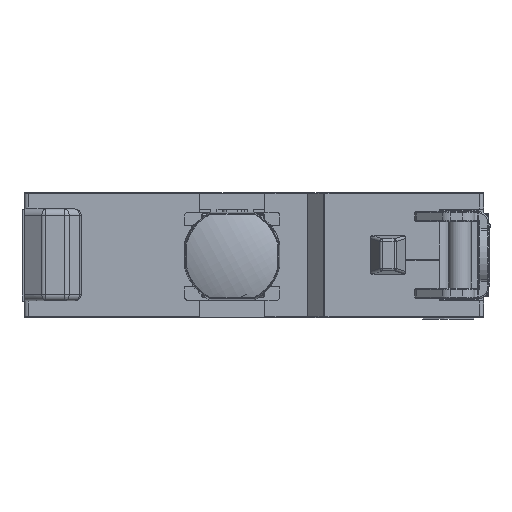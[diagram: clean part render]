
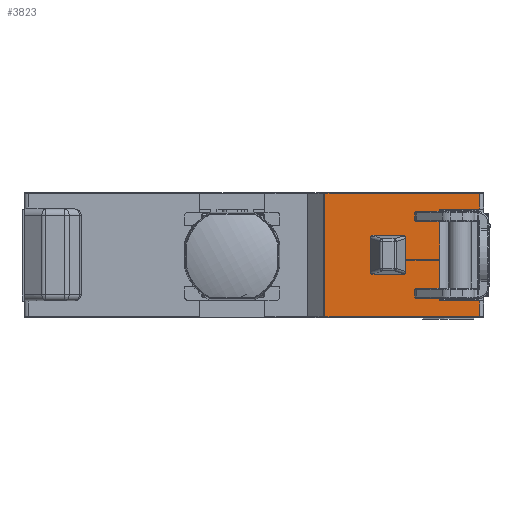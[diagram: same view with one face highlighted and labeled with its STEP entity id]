
A CAD part, top view. The second image highlights one B-rep face of the part: STEP entity #3823.
In plain terms, the highlighted planar face has unit normal (0, 0, 1).
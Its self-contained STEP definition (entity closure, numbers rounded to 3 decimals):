
#1602=CIRCLE('',#32000,0.2);
#1603=CIRCLE('',#32003,0.2);
#1604=CIRCLE('',#32006,0.2);
#3823=ADVANCED_FACE('',(#6351),#5276,.T.);
#5276=PLANE('',#32084);
#6351=FACE_OUTER_BOUND('',#8014,.T.);
#8014=EDGE_LOOP('',(#12442,#12443,#12444,#12445,#12446,#12447,#12448,#12449,
#12450,#12451,#12452,#12453,#12454,#12455,#12456,#12457,#12458,#12459,#12460,
#12461,#12462,#12463,#12464,#12465,#12466,#12467));
#12442=ORIENTED_EDGE('',*,*,#22766,.T.);
#12443=ORIENTED_EDGE('',*,*,#22876,.T.);
#12444=ORIENTED_EDGE('',*,*,#21464,.F.);
#12445=ORIENTED_EDGE('',*,*,#22418,.F.);
#12446=ORIENTED_EDGE('',*,*,#22877,.F.);
#12447=ORIENTED_EDGE('',*,*,#22878,.F.);
#12448=ORIENTED_EDGE('',*,*,#22413,.F.);
#12449=ORIENTED_EDGE('',*,*,#21274,.T.);
#12450=ORIENTED_EDGE('',*,*,#22879,.T.);
#12451=ORIENTED_EDGE('',*,*,#21279,.T.);
#12452=ORIENTED_EDGE('',*,*,#22411,.F.);
#12453=ORIENTED_EDGE('',*,*,#22493,.F.);
#12454=ORIENTED_EDGE('',*,*,#22532,.F.);
#12455=ORIENTED_EDGE('',*,*,#22880,.T.);
#12456=ORIENTED_EDGE('',*,*,#22778,.F.);
#12457=ORIENTED_EDGE('',*,*,#22808,.T.);
#12458=ORIENTED_EDGE('',*,*,#22875,.T.);
#12459=ORIENTED_EDGE('',*,*,#22881,.T.);
#12460=ORIENTED_EDGE('',*,*,#22882,.T.);
#12461=ORIENTED_EDGE('',*,*,#21288,.T.);
#12462=ORIENTED_EDGE('',*,*,#22793,.T.);
#12463=ORIENTED_EDGE('',*,*,#22777,.F.);
#12464=ORIENTED_EDGE('',*,*,#22773,.T.);
#12465=ORIENTED_EDGE('',*,*,#22771,.T.);
#12466=ORIENTED_EDGE('',*,*,#22769,.T.);
#12467=ORIENTED_EDGE('',*,*,#22767,.T.);
#18386=VERTEX_POINT('',#41935);
#18388=VERTEX_POINT('',#41938);
#18392=VERTEX_POINT('',#41948);
#18393=VERTEX_POINT('',#41949);
#18401=VERTEX_POINT('',#41969);
#18402=VERTEX_POINT('',#41971);
#18521=VERTEX_POINT('',#42905);
#18524=VERTEX_POINT('',#42911);
#19153=VERTEX_POINT('',#45192);
#19155=VERTEX_POINT('',#45198);
#19157=VERTEX_POINT('',#45206);
#19192=VERTEX_POINT('',#45357);
#19194=VERTEX_POINT('',#45365);
#19328=VERTEX_POINT('',#46176);
#19342=VERTEX_POINT('',#46238);
#19351=VERTEX_POINT('',#46523);
#19356=VERTEX_POINT('',#46549);
#19357=VERTEX_POINT('',#46551);
#19358=VERTEX_POINT('',#46555);
#19359=VERTEX_POINT('',#46559);
#19360=VERTEX_POINT('',#46563);
#19361=VERTEX_POINT('',#46567);
#19362=VERTEX_POINT('',#46571);
#19383=VERTEX_POINT('',#46652);
#19403=VERTEX_POINT('',#46790);
#19404=VERTEX_POINT('',#46799);
#21274=EDGE_CURVE('',#18388,#18386,#25719,.T.);
#21279=EDGE_CURVE('',#18392,#18393,#25722,.T.);
#21288=EDGE_CURVE('',#18402,#18401,#25730,.T.);
#21464=EDGE_CURVE('',#18524,#18521,#25865,.T.);
#22411=EDGE_CURVE('',#19153,#18393,#26622,.T.);
#22413=EDGE_CURVE('',#18388,#19155,#26624,.T.);
#22418=EDGE_CURVE('',#19157,#18524,#26628,.T.);
#22493=EDGE_CURVE('',#19192,#19153,#26692,.T.);
#22532=EDGE_CURVE('',#19194,#19192,#26709,.T.);
#22766=EDGE_CURVE('',#19356,#19357,#1602,.T.);
#22767=EDGE_CURVE('',#19358,#19356,#26853,.T.);
#22769=EDGE_CURVE('',#19359,#19358,#1603,.T.);
#22771=EDGE_CURVE('',#19360,#19359,#26856,.T.);
#22773=EDGE_CURVE('',#19361,#19360,#1604,.T.);
#22777=EDGE_CURVE('',#19361,#19362,#26861,.T.);
#22778=EDGE_CURVE('',#19328,#19342,#26862,.T.);
#22793=EDGE_CURVE('',#18401,#19362,#26872,.T.);
#22808=EDGE_CURVE('',#19328,#19383,#26878,.T.);
#22875=EDGE_CURVE('',#19383,#19403,#26922,.T.);
#22876=EDGE_CURVE('',#19357,#18521,#26923,.T.);
#22877=EDGE_CURVE('',#19351,#19157,#26924,.T.);
#22878=EDGE_CURVE('',#19155,#19351,#26925,.T.);
#22879=EDGE_CURVE('',#18386,#18392,#26926,.T.);
#22880=EDGE_CURVE('',#19194,#19342,#26927,.T.);
#22881=EDGE_CURVE('',#19403,#19404,#26928,.T.);
#22882=EDGE_CURVE('',#19404,#18402,#26929,.T.);
#25719=LINE('',#41937,#28443);
#25722=LINE('',#41947,#28446);
#25730=LINE('',#41970,#28454);
#25865=LINE('',#42912,#28589);
#26622=LINE('',#45193,#29346);
#26624=LINE('',#45197,#29348);
#26628=LINE('',#45207,#29352);
#26692=LINE('',#45358,#29416);
#26709=LINE('',#45718,#29433);
#26853=LINE('',#46554,#29577);
#26856=LINE('',#46562,#29580);
#26861=LINE('',#46574,#29585);
#26862=LINE('',#46576,#29586);
#26872=LINE('',#46607,#29596);
#26878=LINE('',#46651,#29602);
#26922=LINE('',#46791,#29646);
#26923=LINE('',#46793,#29647);
#26924=LINE('',#46794,#29648);
#26925=LINE('',#46795,#29649);
#26926=LINE('',#46796,#29650);
#26927=LINE('',#46797,#29651);
#26928=LINE('',#46798,#29652);
#26929=LINE('',#46800,#29653);
#28443=VECTOR('',#33803,1.);
#28446=VECTOR('',#33812,1.);
#28454=VECTOR('',#33822,1.);
#28589=VECTOR('',#34093,1.);
#29346=VECTOR('',#35780,1.);
#29348=VECTOR('',#35784,1.);
#29352=VECTOR('',#35794,1.);
#29416=VECTOR('',#35962,1.);
#29433=VECTOR('',#36038,1.);
#29577=VECTOR('',#36520,1.);
#29580=VECTOR('',#36529,1.);
#29585=VECTOR('',#36540,1.);
#29586=VECTOR('',#36543,1.);
#29596=VECTOR('',#36572,1.);
#29602=VECTOR('',#36598,1.);
#29646=VECTOR('',#36756,1.);
#29647=VECTOR('',#36759,1.);
#29648=VECTOR('',#36760,1.);
#29649=VECTOR('',#36761,1.);
#29650=VECTOR('',#36762,1.);
#29651=VECTOR('',#36763,1.);
#29652=VECTOR('',#36764,1.);
#29653=VECTOR('',#36765,1.);
#32000=AXIS2_PLACEMENT_3D('',#46552,#36516,#36517);
#32003=AXIS2_PLACEMENT_3D('',#46558,#36524,#36525);
#32006=AXIS2_PLACEMENT_3D('',#46566,#36533,#36534);
#32084=AXIS2_PLACEMENT_3D('',#46801,#36766,#36767);
#33803=DIRECTION('',(0.,1.,0.));
#33812=DIRECTION('',(0.,1.,0.));
#33822=DIRECTION('',(0.,1.,0.));
#34093=DIRECTION('',(-1.,0.,0.));
#35780=DIRECTION('',(-1.,0.,0.));
#35784=DIRECTION('',(-1.,0.,0.));
#35794=DIRECTION('',(0.,1.,0.));
#35962=DIRECTION('',(0.,-1.,0.));
#36038=DIRECTION('',(1.,0.,0.));
#36516=DIRECTION('',(0.,0.,-1.));
#36517=DIRECTION('',(0.,1.,0.));
#36520=DIRECTION('',(0.,1.,0.));
#36524=DIRECTION('',(0.,0.,-1.));
#36525=DIRECTION('',(0.,-1.,0.));
#36529=DIRECTION('',(-1.,0.,0.));
#36533=DIRECTION('',(0.,0.,-1.));
#36534=DIRECTION('',(0.,-1.,0.));
#36540=DIRECTION('',(0.,1.,0.));
#36543=DIRECTION('',(-1.,0.,0.));
#36572=DIRECTION('',(-1.,0.,0.));
#36598=DIRECTION('',(0.,1.,0.));
#36756=DIRECTION('',(-1.,0.,0.));
#36759=DIRECTION('',(1.,0.,0.));
#36760=DIRECTION('',(-1.,0.,0.));
#36761=DIRECTION('',(0.,1.,0.));
#36762=DIRECTION('',(0.,1.,0.));
#36763=DIRECTION('',(0.,-1.,0.));
#36764=DIRECTION('',(0.,1.,0.));
#36765=DIRECTION('',(0.,1.,0.));
#36766=DIRECTION('',(0.,0.,1.));
#36767=DIRECTION('',(0.,-1.,0.));
#41935=CARTESIAN_POINT('',(17.754,3.879,34.784));
#41937=CARTESIAN_POINT('',(17.754,-2.521,34.784));
#41938=CARTESIAN_POINT('',(17.754,0.779,34.784));
#41947=CARTESIAN_POINT('',(17.754,-2.521,34.784));
#41948=CARTESIAN_POINT('',(17.754,4.479,34.784));
#41949=CARTESIAN_POINT('',(17.754,4.779,34.784));
#41969=CARTESIAN_POINT('',(17.754,0.729,34.784));
#41970=CARTESIAN_POINT('',(17.754,-2.521,34.784));
#41971=CARTESIAN_POINT('',(17.754,-1.621,34.784));
#42905=CARTESIAN_POINT('',(13.954,2.679,34.784));
#42911=CARTESIAN_POINT('',(14.254,2.679,34.784));
#42912=CARTESIAN_POINT('',(7.254,2.679,34.784));
#45192=CARTESIAN_POINT('',(20.954,4.779,34.784));
#45193=CARTESIAN_POINT('',(7.254,4.779,34.784));
#45197=CARTESIAN_POINT('',(7.254,0.779,34.784));
#45198=CARTESIAN_POINT('',(14.854,0.779,34.784));
#45206=CARTESIAN_POINT('',(14.254,2.479,34.784));
#45207=CARTESIAN_POINT('',(14.254,6.079,34.784));
#45357=CARTESIAN_POINT('',(20.954,6.029,34.784));
#45358=CARTESIAN_POINT('',(20.954,6.079,34.784));
#45365=CARTESIAN_POINT('',(8.637,6.029,34.784));
#45718=CARTESIAN_POINT('',(3.004,6.029,34.784));
#46176=CARTESIAN_POINT('',(20.954,-3.771,34.784));
#46238=CARTESIAN_POINT('',(8.637,-3.771,34.784));
#46523=CARTESIAN_POINT('',(14.854,2.479,34.784));
#46549=CARTESIAN_POINT('',(12.254,2.479,34.784));
#46551=CARTESIAN_POINT('',(12.454,2.679,34.784));
#46552=CARTESIAN_POINT('',(12.454,2.479,34.784));
#46554=CARTESIAN_POINT('',(12.254,-2.521,34.784));
#46555=CARTESIAN_POINT('',(12.254,-0.221,34.784));
#46558=CARTESIAN_POINT('',(12.454,-0.221,34.784));
#46559=CARTESIAN_POINT('',(12.454,-0.421,34.784));
#46562=CARTESIAN_POINT('',(1.254,-0.421,34.784));
#46563=CARTESIAN_POINT('',(14.854,-0.421,34.784));
#46566=CARTESIAN_POINT('',(14.854,-0.221,34.784));
#46567=CARTESIAN_POINT('',(15.054,-0.221,34.784));
#46571=CARTESIAN_POINT('',(15.054,0.729,34.784));
#46574=CARTESIAN_POINT('',(15.054,-0.421,34.784));
#46576=CARTESIAN_POINT('',(3.004,-3.771,34.784));
#46607=CARTESIAN_POINT('',(1.254,0.729,34.784));
#46651=CARTESIAN_POINT('',(20.954,-2.521,34.784));
#46652=CARTESIAN_POINT('',(20.954,-2.521,34.784));
#46790=CARTESIAN_POINT('',(17.754,-2.521,34.784));
#46791=CARTESIAN_POINT('',(1.254,-2.521,34.784));
#46793=CARTESIAN_POINT('',(7.254,2.679,34.784));
#46794=CARTESIAN_POINT('',(1.254,2.479,34.784));
#46795=CARTESIAN_POINT('',(14.854,-2.521,34.784));
#46796=CARTESIAN_POINT('',(17.754,-2.521,34.784));
#46797=CARTESIAN_POINT('',(8.637,-2.521,34.784));
#46798=CARTESIAN_POINT('',(17.754,-2.521,34.784));
#46799=CARTESIAN_POINT('',(17.754,-2.221,34.784));
#46800=CARTESIAN_POINT('',(17.754,-2.521,34.784));
#46801=CARTESIAN_POINT('',(1.254,-2.521,34.784));
